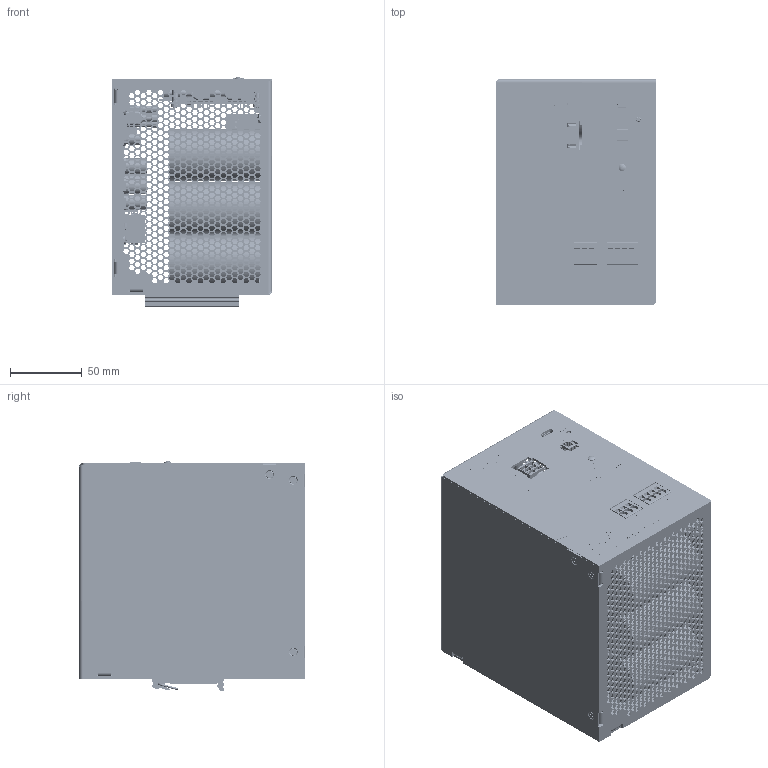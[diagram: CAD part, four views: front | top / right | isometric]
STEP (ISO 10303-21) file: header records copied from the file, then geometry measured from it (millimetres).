
FILE_DESCRIPTION (( 'STEP AP214' ), '1' );
FILE_NAME ('UPSI-2415DP2_Assembly-total.STEP', '2025-07-15T14:31:59', ( '' ), ( '' ), 'SwSTEP 2.0', 'SolidWorks 2025', '' );
FILE_SCHEMA (( 'AUTOMOTIVE_DESIGN' ));
Length unit declared in the file: millimetre
Products named in the file (25): Frontlabel_UPSI-2415DP2_F0-0033; UPSI-2415DPx_Case-front_REV-0.02_F3-0015; BSO-M3-8_Blind-threaded-standoff; Quick-Disconnect_190030044; Light-pipe_LFC012CTP_F5-0078; UPSI-2415DPx_Case-back_REV-0.02_F3-0015; BSO-M3-16_Blind-threaded-standoff; F-M3-1_press-in-nut; Countersunkscrew-M3x6; Mylar-insulating-foil_BP-SUC-YYYYY_REV-1.1_F1-0314; BSO-M3-6ZI_Blind-threaded-standoff; Ovalheadscrew-M3x5; UPSI-2415ADPx_Main-PCB_v2.0.0; UPSI-2415DPx_Case-back-assembly_REV-0.02_F3-0015; UPSI-2415DP2_Assembly-total; Countersunkscrew-M3x4; 039012060_6p; Adapter-board-DC-IN-OUT_REV-1.1.0_F6-0031; UPSI-2415ADPx_Interface-v3.2.0_F6-0029; BSO-M3-14_Blind-threaded-standoff; BP-SUC-yyyyyD_v8.5; Data-battery-connector; DIN-Rail_holder_wide_65mm_REV-2.0_F1-0331; Modbus-modul_REV-1.0_F6-0020; UPSI-2415DPx_Case-front-assembly_REV-0.02_F3-0015
Assembly tree (76 placements, depth 3):
  UPSI-2415DP2_Assembly-total
    UPSI-2415DPx_Case-back-assembly_REV-0.02_F3-0015
      UPSI-2415DPx_Case-back_REV-0.02_F3-0015
      BSO-M3-6ZI_Blind-threaded-standoff  x4
      F-M3-1_press-in-nut  x4
    UPSI-2415DPx_Case-front-assembly_REV-0.02_F3-0015
      UPSI-2415DPx_Case-front_REV-0.02_F3-0015
      BSO-M3-6ZI_Blind-threaded-standoff  x4
      BSO-M3-16_Blind-threaded-standoff  x4
      BSO-M3-8_Blind-threaded-standoff  x4
      BSO-M3-14_Blind-threaded-standoff  x2
    BP-SUC-yyyyyD_v8.5
    Modbus-modul_REV-1.0_F6-0020
    UPSI-2415ADPx_Interface-v3.2.0_F6-0029
    UPSI-2415ADPx_Main-PCB_v2.0.0
    Adapter-board-DC-IN-OUT_REV-1.1.0_F6-0031
    Data-battery-connector  x2
    039012060_6p  x2
    Mylar-insulating-foil_BP-SUC-YYYYY_REV-1.1_F1-0314
    Quick-Disconnect_190030044  x8
    DIN-Rail_holder_wide_65mm_REV-2.0_F1-0331
    Light-pipe_LFC012CTP_F5-0078
    Countersunkscrew-M3x6  x3
    Countersunkscrew-M3x4  x8
    Ovalheadscrew-M3x5  x18
    Frontlabel_UPSI-2415DP2_F0-0033
Bounding box: 111 x 157 x 159.77 mm (x, y, z)
Volume: 1041186.2 mm3; surface area: 563052.4 mm2
Topology: 305 solids, 530 shells, 25919 faces, 70906 edges, 46354 vertices
Faces by surface type: plane 20672, cylinder 2712, bspline 1776, cone 375, torus 250, sphere 134
Entity records: 960240 total; most frequent: CARTESIAN_POINT 252678, ORIENTED_EDGE 124593, DIRECTION 104091, EDGE_CURVE 62298, VECTOR 54431, LINE 54431, VERTEX_POINT 41049, EDGE_LOOP 26538
